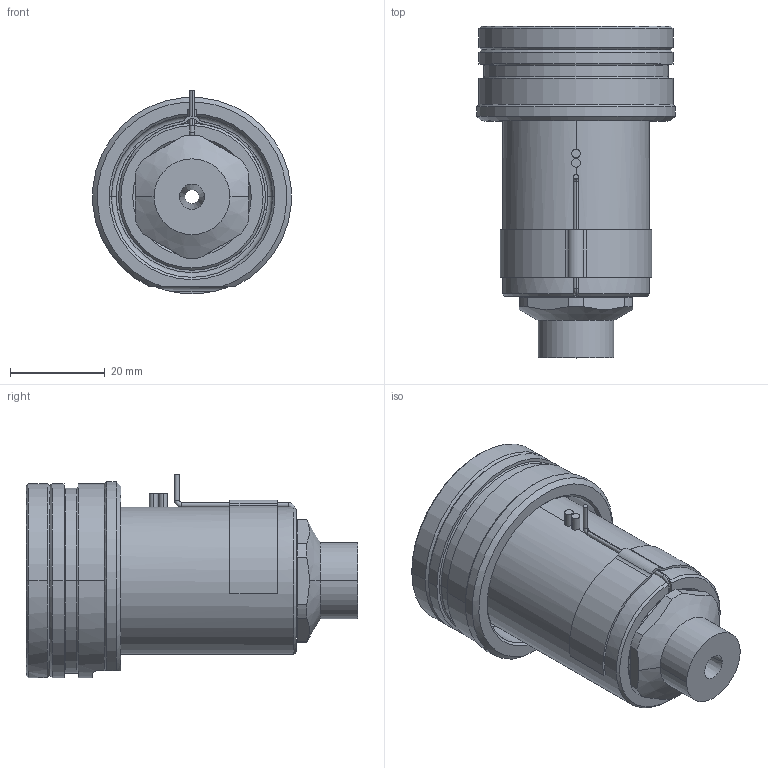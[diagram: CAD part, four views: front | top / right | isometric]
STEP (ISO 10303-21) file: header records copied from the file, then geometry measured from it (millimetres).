
FILE_DESCRIPTION((''),'2;1');
FILE_NAME('EO12_SG_SG_050_SW','2024-02-19T12:27:16',('sundharh'),(''),'CREO PARAMETRIC BY PTC INC, 2023154','CREO PARAMETRIC BY PTC INC, 2023154','');
FILE_SCHEMA(('CONFIG_CONTROL_DESIGN'));
Length unit declared in the file: millimetre
Products named in the file (1): EO12_SG_SG_050_SW
Bounding box: 41.85 x 70 x 43 mm (x, y, z)
Volume: 49048.9 mm3; surface area: 15970.5 mm2
Topology: 2 solids, 3 shells, 177 faces, 448 edges, 273 vertices
Faces by surface type: cylinder 65, plane 46, cone 33, torus 27, sphere 3, bspline 3
Entity records: 5973 total; most frequent: CARTESIAN_POINT 1621, DIRECTION 956, ORIENTED_EDGE 888, EDGE_CURVE 444, AXIS2_PLACEMENT_3D 399, VERTEX_POINT 273, CIRCLE 225, EDGE_LOOP 193
